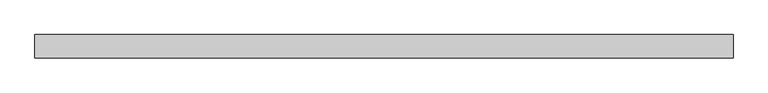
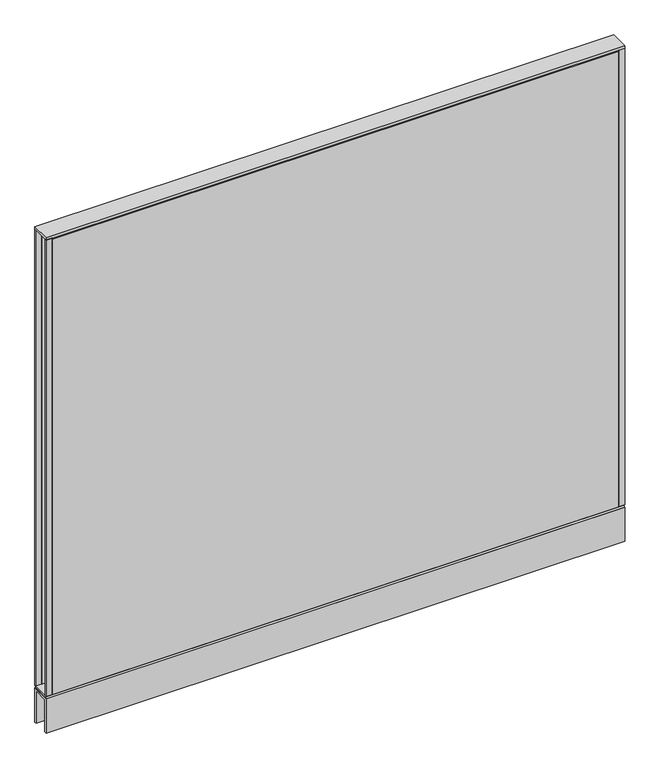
"""IFC4 building model written with IfcOpenShell, lengths in millimetres: furniture geometry, Steelcase - Kick Solutions - Panel - Monolithic - Tackable Acoustical : 54H x 60W."""

from ifc_helpers import new_model, si_unit, frame, origin, place, context, project, spatial, polyline, outline, extrude, source, transform, mapped, element, save


def furniture_a843e571(model_context):
    return source(origin(), model_context, "Body", "SweptSolid", [
        extrude(outline(polyline([(0.0, 101.7169049), (-3.1750015, 101.7169049), (-3.1750015, 1371.7169018), (0.0, 1368.6357466), (0.0, 101.7169049)])), frame((15.8749996, 0.0, 0.0), z_axis=(1.0, 0.0, 0.0), x_axis=(0.0, 1.0, 0.0)), (0.0, 0.0, 1.0), 1492.2500008),
        extrude(outline(polyline([(-50.8000015, 101.7169049), (-50.8000015, 1368.6357466), (-47.625, 1371.7169018), (-47.625, 101.7169049), (-50.8000015, 101.7169049)])), frame((15.8749996, 0.0, 0.0), z_axis=(1.0, 0.0, 0.0), x_axis=(0.0, 1.0, 0.0)), (0.0, 0.0, 1.0), 1492.2500008),
        extrude(outline(polyline([(1524.0, -3.1750015), (1508.1250004, -3.1750015), (1508.1250004, 0.0), (1524.0, 0.0), (1524.0, -3.1750015)])), frame((0.0, 0.0, 101.7169049), z_axis=(0.0, 0.0, 1.0), x_axis=(1.0, 0.0, 0.0)), (0.0, 0.0, 1.0), 1269.999997),
        extrude(outline(polyline([(15.8749996, -50.8000015), (0.0, -50.8000015), (0.0, -47.625), (15.8749996, -47.625), (15.8749996, -50.8000015)])), frame((0.0, 0.0, 101.7169049), z_axis=(0.0, 0.0, 1.0), x_axis=(1.0, 0.0, 0.0)), (0.0, 0.0, 1.0), 1269.999997),
        extrude(outline(polyline([(-50.7995075, 101.7169049), (-0.000494, 101.7169049), (-3.0583512, 98.5421458), (-47.7416503, 98.5421458), (-50.7995075, 101.7169049)])), frame((0.0, 0.0, 0.0), z_axis=(1.0, 0.0, 0.0), x_axis=(0.0, 1.0, 0.0)), (0.0, 0.0, 1.0), 1524.0),
        extrude(outline(polyline([(1524.0, 0.0), (1524.0, -50.8000015), (0.0, -50.8000015), (0.0, 0.0), (1524.0, 0.0)])), frame((0.0, 0.0, 1371.7169018), z_axis=(0.0, 0.0, 1.0), x_axis=(1.0, 0.0, 0.0)), (0.0, 0.0, 1.0), 6.35),
        extrude(outline(polyline([(15.8749996, -3.1750015), (0.0, -3.1750015), (0.0, 0.0), (15.8749996, 0.0), (15.8749996, -3.1750015)])), frame((0.0, 0.0, 101.7169049), z_axis=(0.0, 0.0, 1.0), x_axis=(1.0, 0.0, 0.0)), (0.0, 0.0, 1.0), 1269.999997),
        extrude(outline(polyline([(1524.0, -50.8000015), (1508.1250004, -50.8000015), (1508.1250004, -47.625), (1524.0, -47.625), (1524.0, -50.8000015)])), frame((0.0, 0.0, 101.7169049), z_axis=(0.0, 0.0, 1.0), x_axis=(1.0, 0.0, 0.0)), (0.0, 0.0, 1.0), 1269.999997),
        extrude(outline(polyline([(-50.8000015, 95.3668927), (-47.6247484, 98.5421458), (-3.1752531, 98.5421458), (0.0, 95.3668927), (-50.8000015, 95.3668927)])), frame((0.0, 0.0, 0.0), z_axis=(1.0, 0.0, 0.0), x_axis=(0.0, 1.0, 0.0)), (0.0, 0.0, 1.0), 1524.0),
        extrude(outline(polyline([(0.0, 0.0), (-5.08, 0.0), (-5.08, 90.2869018), (-45.7200015, 90.2869018), (-45.7200015, 0.0), (-50.8000015, 0.0), (-50.8000015, 95.3669018), (0.0, 95.3669018), (0.0, 0.0)])), frame((0.0, 0.0, 0.0), z_axis=(1.0, 0.0, 0.0), x_axis=(0.0, 1.0, 0.0)), (0.0, 0.0, 1.0), 1524.0),
    ])


if __name__ == "__main__":
    model = new_model("IFC4")
    model_context = context("Model", 3, world=origin())
    ifc_project = project(units=[si_unit("LENGTHUNIT", "METRE", prefix="MILLI")], contexts=[model_context])
    site = spatial("IfcSite", under=ifc_project)
    building = spatial("IfcBuilding", under=site)
    placement = place(None, origin())
    furniture_shape = furniture_a843e571(model_context)
    element("IfcFurniture", 1, ObjectType="Steelcase - Kick Solutions - Panel - Monolithic - Tackable Acoustical : 54H x 60W", at=placement, inside=building, context=model_context, shape_type="MappedRepresentation", body=[
        mapped(furniture_shape, transform((0.0, 0.0, 0.0), x_axis=(1.0, 0.0, 0.0), y_axis=(0.0, 1.0, 0.0), z_axis=(0.0, 0.0, 1.0))),
    ])
    save(model, "model.ifc")
